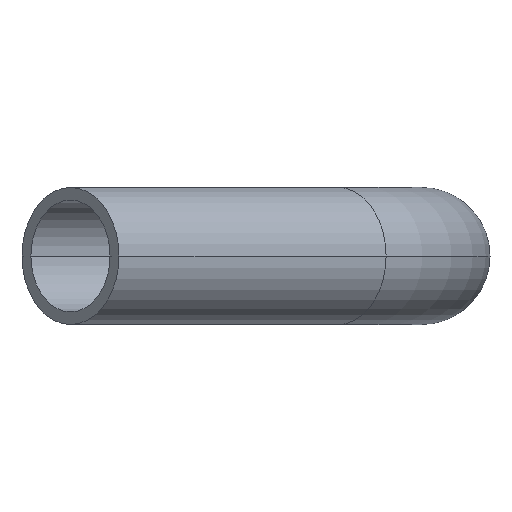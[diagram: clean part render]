
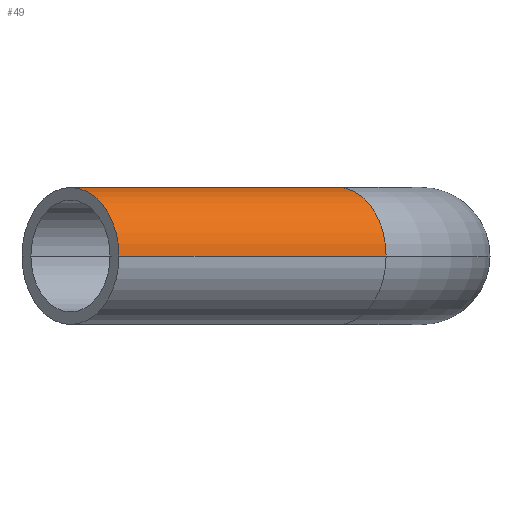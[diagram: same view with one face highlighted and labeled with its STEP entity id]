
A CAD part, left-side view. The second image highlights one B-rep face of the part: STEP entity #49.
In plain terms, the highlighted cylindrical face has radius 31.5 mm (diameter 63 mm), a partial arc.
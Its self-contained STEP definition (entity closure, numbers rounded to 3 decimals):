
#39 = DIRECTION ( 'NONE',  ( 0., 0., -1. ) ) ;
#40 = DIRECTION ( 'NONE',  ( 0.707, -0.707, 0. ) ) ;
#42 = CARTESIAN_POINT ( 'NONE',  ( -432.726, 161.226, 0. ) ) ;
#49 = ADVANCED_FACE ( 'NONE', ( #226 ), #219, .T. ) ;
#67 = EDGE_CURVE ( 'NONE', #263, #262, #168, .T. ) ;
#72 = EDGE_CURVE ( 'NONE', #203, #262, #434, .T. ) ;
#75 = EDGE_CURVE ( 'NONE', #320, #203, #154, .T. ) ;
#82 = EDGE_CURVE ( 'NONE', #320, #263, #353, .T. ) ;
#148 = AXIS2_PLACEMENT_3D ( 'NONE', #330, #331, #332 ) ;
#154 = CIRCLE ( 'NONE', #148, 31.5 ) ;
#155 = VECTOR ( 'NONE', #323, 1000. ) ;
#166 = AXIS2_PLACEMENT_3D ( 'NONE', #42, #40, #39 ) ;
#168 = CIRCLE ( 'NONE', #166, 31.5 ) ;
#173 = VECTOR ( 'NONE', #356, 1000. ) ;
#184 = AXIS2_PLACEMENT_3D ( 'NONE', #223, #229, #218 ) ;
#203 = VERTEX_POINT ( 'NONE', #354 ) ;
#218 = DIRECTION ( 'NONE',  ( -0.707, -0.707, 0. ) ) ;
#219 = CYLINDRICAL_SURFACE ( 'NONE', #184, 31.5 ) ;
#223 = CARTESIAN_POINT ( 'NONE',  ( -310.015, 38.515, 0. ) ) ;
#226 = FACE_OUTER_BOUND ( 'NONE', #251, .T. ) ;
#229 = DIRECTION ( 'NONE',  ( -0.707, 0.707, 0. ) ) ;
#251 = EDGE_LOOP ( 'NONE', ( #276, #277, #278, #279 ) ) ;
#262 = VERTEX_POINT ( 'NONE', #366 ) ;
#263 = VERTEX_POINT ( 'NONE', #367 ) ;
#276 = ORIENTED_EDGE ( 'NONE', *, *, #75, .F. ) ;
#277 = ORIENTED_EDGE ( 'NONE', *, *, #82, .T. ) ;
#278 = ORIENTED_EDGE ( 'NONE', *, *, #67, .T. ) ;
#279 = ORIENTED_EDGE ( 'NONE', *, *, #72, .F. ) ;
#320 = VERTEX_POINT ( 'NONE', #368 ) ;
#322 = CARTESIAN_POINT ( 'NONE',  ( -332.289, 16.242, 0. ) ) ;
#323 = DIRECTION ( 'NONE',  ( -0.707, 0.707, 0. ) ) ;
#330 = CARTESIAN_POINT ( 'NONE',  ( -310.015, 38.515, 0. ) ) ;
#331 = DIRECTION ( 'NONE',  ( 0.707, -0.707, 0. ) ) ;
#332 = DIRECTION ( 'NONE',  ( 0., 0., -1. ) ) ;
#353 = LINE ( 'NONE', #355, #173 ) ;
#354 = CARTESIAN_POINT ( 'NONE',  ( -332.289, 16.242, 0. ) ) ;
#355 = CARTESIAN_POINT ( 'NONE',  ( -287.742, 60.789, 0. ) ) ;
#356 = DIRECTION ( 'NONE',  ( -0.707, 0.707, 0. ) ) ;
#366 = CARTESIAN_POINT ( 'NONE',  ( -455., 138.952, 0. ) ) ;
#367 = CARTESIAN_POINT ( 'NONE',  ( -410.452, 183.5, 0. ) ) ;
#368 = CARTESIAN_POINT ( 'NONE',  ( -287.742, 60.789, 0. ) ) ;
#434 = LINE ( 'NONE', #322, #155 ) ;
